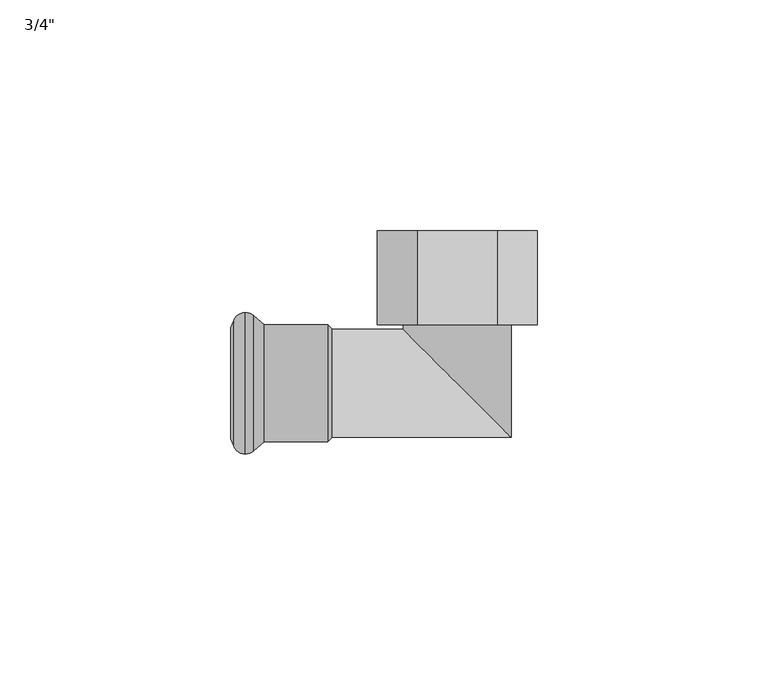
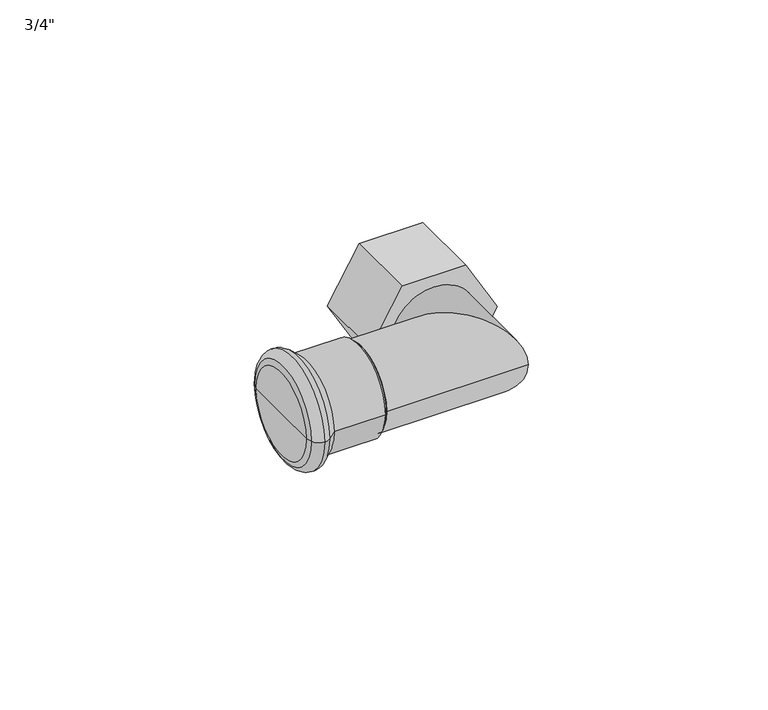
"""IFC4 building model written with IfcOpenShell, lengths in millimetres: pipe fitting geometry."""

from ifc_helpers import new_model, si_unit, point, frame, origin, place, context, project, spatial, polyline, circle_curve, ellipse_curve, trimmed, outline, extrude, source, transform, mapped, element, save
from ifc_brep_helpers import plane_surface, cylinder_surface, revolved_surface, advanced_brep


def pipe_fitting_a796891b(model_context):
    return source(origin(), model_context, "Body", "SolidModel", [
        advanced_brep(
        [(-11.7, 12.7, 0.0), (11.7, 12.7, 0.0), (-11.7, 11.7, 0.0), (11.7, -11.7, 0.0), (-27.0, 11.7, 0.0), (-27.0, -11.7, 0.0)],
        [
            (0, 1, circle_curve(frame((0.0, 12.7, 0.0), z_axis=(0.0, 1.0, 0.0), x_axis=(1.0, 0.0, 0.0)), 11.7)),
            (1, 0, circle_curve(frame((0.0, 12.7, 0.0), z_axis=(0.0, 1.0, 0.0), x_axis=(1.0, 0.0, 0.0)), 11.7)),
            (0, 2),
            (2, 3, ellipse_curve(frame((0.0, 0.0, 0.0), z_axis=(0.7071067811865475, 0.7071067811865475, 0.0), x_axis=(-0.7071067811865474, 0.7071067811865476, 0.0)), 16.5462987, 11.7)),
            (3, 1),
            (3, 2, ellipse_curve(frame((0.0, 0.0, 0.0), z_axis=(0.7071067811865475, 0.7071067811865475, 0.0), x_axis=(-0.7071067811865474, 0.7071067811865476, 0.0)), 16.5462987, 11.7)),
            (4, 5, circle_curve(frame((-27.0, 0.0, 0.0), z_axis=(-1.0, 0.0, 0.0), x_axis=(0.0, -1.0, 0.0)), 11.7)),
            (5, 4, circle_curve(frame((-27.0, 0.0, 0.0), z_axis=(-1.0, 0.0, 0.0), x_axis=(0.0, -1.0, 0.0)), 11.7)),
            (2, 4),
            (5, 3),
        ],
        [
            plane_surface(frame((0.0, 12.7, 0.0), z_axis=(0.0, 1.0, 0.0), x_axis=(0.0, 0.0, 1.0))),
            cylinder_surface(frame((0.0, 12.7, 0.0), z_axis=(0.0, 1.0, 0.0), x_axis=(1.0, 0.0, 0.0)), 11.7),
            plane_surface(frame((-27.0, 0.0, 0.0), z_axis=(-1.0, 0.0, 0.0), x_axis=(0.0, 0.0, 1.0))),
            cylinder_surface(frame((0.0, 0.0, 0.0), z_axis=(1.0, 0.0, 0.0), x_axis=(0.0, -1.0, 0.0)), 11.7),
        ],
        [
            (0, [[1, 2]]),
            (1, [[-1, 3, 4, 5]]),
            (1, [[-2, -5, 6, -3]]),
            (2, [[7, 8]]),
            (3, [[-4, 9, -8, 10]]),
            (3, [[-6, -10, -7, -9]]),
        ],
    ),
        extrude(outline(polyline([(0.0, 17.3205081), (15.0, 8.660254), (15.0, -8.660254), (0.0, -17.3205081), (-15.0, -8.660254), (-15.0, 8.660254), (0.0, 17.3205081)])), frame((0.0, 12.7, 0.0), z_axis=(0.0, 1.0, 0.0), x_axis=(0.0, 0.0, 1.0)), (0.0, 0.0, 1.0), 20.3),
        advanced_brep(
        [(-41.7838092, -12.7, 0.0), (-41.7838092, 12.7, 0.0), (-28.0, 12.7, 0.0), (-28.0, -12.7, 0.0), (-44.0922627, -14.6370225, 0.0), (-44.0922627, 14.6370225, 0.0), (-45.8921278, -15.325, 0.0), (-45.8921278, 15.325, 0.0), (-48.432052, -13.5484544, 0.0), (-48.432052, 13.5484544, 0.0), (-49.0, -11.9880302, 0.0), (-49.0, 11.9880302, 0.0), (-49.0, 0.0, 0.0), (-27.0, 11.7, 0.0), (-27.0, -11.7, 0.0), (-27.0, 0.0, 0.0)],
        [
            (0, 1, circle_curve(frame((-41.7838092, 0.0, 0.0), z_axis=(1.0, 0.0, 0.0), x_axis=(0.0, 1.0, 0.0)), 12.7)),
            (1, 2),
            (2, 3, circle_curve(frame((-28.0, 0.0, 0.0), z_axis=(-1.0, 0.0, 0.0), x_axis=(0.0, 1.0, 0.0)), 12.7)),
            (3, 0),
            (1, 0, circle_curve(frame((-41.7838092, 0.0, 0.0), z_axis=(1.0, 0.0, 0.0), x_axis=(0.0, 1.0, 0.0)), 12.7)),
            (3, 2, circle_curve(frame((-28.0, 0.0, 0.0), z_axis=(-1.0, 0.0, 0.0), x_axis=(0.0, 1.0, 0.0)), 12.7)),
            (4, 5, circle_curve(frame((-44.0922627, 0.0, 0.0), z_axis=(1.0, 0.0, 0.0), x_axis=(0.0, 1.0, 0.0)), 14.6370225)),
            (5, 1),
            (0, 4),
            (5, 4, circle_curve(frame((-44.0922627, 0.0, 0.0), z_axis=(1.0, 0.0, 0.0), x_axis=(0.0, 1.0, 0.0)), 14.6370225)),
            (6, 7, circle_curve(frame((-45.8921278, 0.0, 0.0), z_axis=(1.0, 0.0, 0.0), x_axis=(0.0, 1.0, 0.0)), 15.325)),
            (7, 5, circle_curve(frame((-45.8935049, 12.6230333, 0.0), z_axis=(0.0, 0.0, -1.0), x_axis=(1.0, 0.0, 0.0)), 2.701967)),
            (4, 6, circle_curve(frame((-45.8935049, -12.6230333, 0.0), z_axis=(0.0, 0.0, -1.0), x_axis=(1.0, 0.0, 0.0)), 2.701967)),
            (7, 6, circle_curve(frame((-45.8921278, 0.0, 0.0), z_axis=(1.0, 0.0, 0.0), x_axis=(0.0, 1.0, 0.0)), 15.325)),
            (8, 9, circle_curve(frame((-48.432052, 0.0, 0.0), z_axis=(1.0, 0.0, 0.0), x_axis=(0.0, 1.0, 0.0)), 13.5484544)),
            (9, 7, circle_curve(frame((-45.89488, 12.6249993, 0.0), z_axis=(0.0, 0.0, -1.0), x_axis=(1.0, 0.0, 0.0)), 2.7000021)),
            (6, 8, circle_curve(frame((-45.89488, -12.6249993, 0.0), z_axis=(0.0, 0.0, -1.0), x_axis=(1.0, 0.0, 0.0)), 2.7000021)),
            (9, 8, circle_curve(frame((-48.432052, 0.0, 0.0), z_axis=(1.0, 0.0, 0.0), x_axis=(0.0, 1.0, 0.0)), 13.5484544)),
            (10, 11, circle_curve(frame((-49.0, 0.0, 0.0), z_axis=(1.0, 0.0, 0.0), x_axis=(0.0, 1.0, 0.0)), 11.9880302)),
            (11, 9),
            (8, 10),
            (11, 10, circle_curve(frame((-49.0, 0.0, 0.0), z_axis=(1.0, 0.0, 0.0), x_axis=(0.0, 1.0, 0.0)), 11.9880302)),
            (12, 11),
            (10, 12),
            (2, 13),
            (13, 14, circle_curve(frame((-27.0, 0.0, 0.0), z_axis=(-1.0, 0.0, 0.0), x_axis=(0.0, 1.0, 0.0)), 11.7)),
            (14, 3),
            (14, 13, circle_curve(frame((-27.0, 0.0, 0.0), z_axis=(-1.0, 0.0, 0.0), x_axis=(0.0, 1.0, 0.0)), 11.7)),
            (13, 15),
            (15, 14),
        ],
        [
            cylinder_surface(frame((1334.742668, 0.0, 0.0), z_axis=(-1.0, 0.0, 0.0), x_axis=(0.0, 1.0, 0.0)), 12.7),
            revolved_surface(polyline([(-41.7838092, 12.7, 0.0), (-44.0922627, 14.6370225, 0.0)]), (1334.742668, 0.0, 0.0), (-1.0, 0.0, 0.0)),
            revolved_surface(trimmed(ellipse_curve(frame((-45.8935049, 12.6230333, 0.0), z_axis=(0.0, 0.0, 1.0), x_axis=(1.0, 0.0, 0.0)), 2.701967, 2.701967), [point((-44.0922627, 14.6370225, 0.0))], [point((-45.8921278, 15.325, 0.0))], True, "CARTESIAN"), (1334.742668, 0.0, 0.0), (-1.0, 0.0, 0.0)),
            revolved_surface(trimmed(ellipse_curve(frame((-45.89488, 12.6249993, 0.0), z_axis=(0.0, 0.0, 1.0), x_axis=(1.0, 0.0, 0.0)), 2.7000021, 2.7000021), [point((-45.8921278, 15.325, 0.0))], [point((-48.432052, 13.5484544, 0.0))], True, "CARTESIAN"), (1334.742668, 0.0, 0.0), (-1.0, 0.0, 0.0)),
            revolved_surface(polyline([(-48.432052, 13.5484544, 0.0), (-49.0, 11.9880302, 0.0)]), (1334.742668, 0.0, 0.0), (-1.0, 0.0, 0.0)),
            plane_surface(frame((-49.0, 0.0, 0.0), z_axis=(-1.0, 0.0, 0.0), x_axis=(0.0, 1.0, 0.0))),
            revolved_surface(polyline([(-27.0, 11.7, 0.0), (-28.0, 12.7, 0.0)]), (1334.742668, 0.0, 0.0), (-1.0, 0.0, 0.0)),
            plane_surface(frame((-27.0, 0.0, 0.0), z_axis=(1.0, 0.0, 0.0), x_axis=(0.0, 1.0, 0.0))),
        ],
        [
            (0, [[1, 2, 3, 4]]),
            (0, [[5, -4, 6, -2]]),
            (1, [[7, 8, -1, 9]]),
            (1, [[10, -9, -5, -8]]),
            (2, [[11, 12, -7, 13]]),
            (2, [[14, -13, -10, -12]]),
            (3, [[15, 16, -11, 17]]),
            (3, [[18, -17, -14, -16]]),
            (4, [[19, 20, -15, 21]]),
            (4, [[22, -21, -18, -20]]),
            (5, [[23, -19, 24]]),
            (5, [[-24, -22, -23]]),
            (6, [[-3, 25, 26, 27]]),
            (6, [[-6, -27, 28, -25]]),
            (7, [[-26, 29, 30]]),
            (7, [[-28, -30, -29]]),
        ],
    ),
    ])


if __name__ == "__main__":
    model = new_model("IFC4")
    model_context = context("Model", 3, world=origin())
    ifc_project = project(units=[si_unit("LENGTHUNIT", "METRE", prefix="MILLI")], contexts=[model_context])
    site = spatial("IfcSite", under=ifc_project)
    building = spatial("IfcBuilding", under=site)
    placement = place(None, origin())
    pipe_fitting_shape = pipe_fitting_a796891b(model_context)
    element("IfcPipeFitting", 1, ObjectType="KAN-therm Inox kolano z GW : 3/4\"", at=placement, inside=building, context=model_context, shape_type="MappedRepresentation", body=[
        mapped(pipe_fitting_shape, transform((0.0, 0.0, 0.0), x_axis=(1.0, 0.0, 0.0), y_axis=(0.0, 1.0, 0.0), z_axis=(0.0, 0.0, 1.0))),
    ])
    save(model, "model.ifc")
